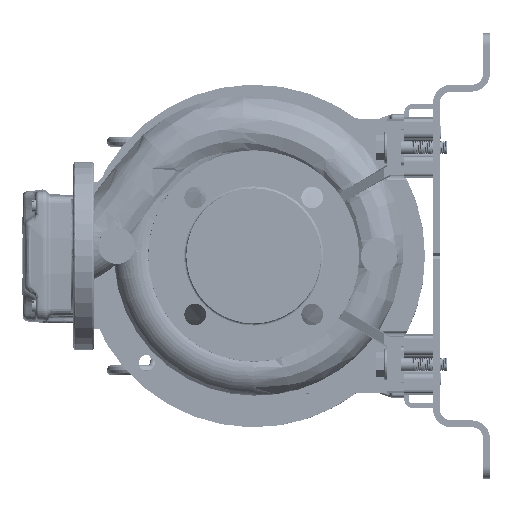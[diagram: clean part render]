
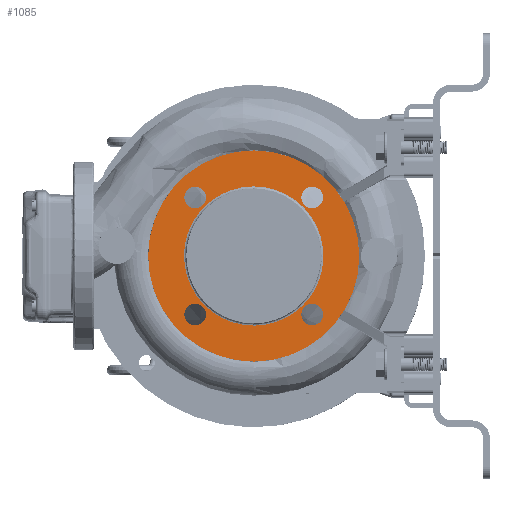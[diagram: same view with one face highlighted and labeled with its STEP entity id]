
A CAD part, left-side view. The second image highlights one B-rep face of the part: STEP entity #1085.
In plain terms, the highlighted planar face has unit normal (-1, 0, 0).
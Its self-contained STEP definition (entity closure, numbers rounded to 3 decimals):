
#846 = DIRECTION ( 'NONE',  ( -1., 0., 0. ) ) ;
#1085 = ADVANCED_FACE ( 'NONE', ( #54096, #177112, #10740, #27861, #38719, #42294 ), #137308, .F. ) ;
#1757 = CARTESIAN_POINT ( 'NONE',  ( -33.099, 157.089, 248.196 ) ) ;
#1987 = EDGE_CURVE ( 'NONE', #115631, #100692, #118472, .T. ) ;
#7335 = CARTESIAN_POINT ( 'NONE',  ( -33.099, 208.354, 308.961 ) ) ;
#8330 = CARTESIAN_POINT ( 'NONE',  ( -33.099, 96.089, 126.196 ) ) ;
#10740 = FACE_BOUND ( 'NONE', #31674, .T. ) ;
#10950 = VERTEX_POINT ( 'NONE', #104416 ) ;
#11632 = CIRCLE ( 'NONE', #150283, 9.5 ) ;
#12382 = DIRECTION ( 'NONE',  ( -1., 0., 0. ) ) ;
#13503 =( BOUNDED_CURVE ( )  B_SPLINE_CURVE ( 3, ( #75287, #157536, #8330, #131312 ),
 .UNSPECIFIED., .F., .F. ) 
 B_SPLINE_CURVE_WITH_KNOTS ( ( 4, 4 ),
 ( 0., 1. ),
 .UNSPECIFIED. ) 
 CURVE ( )  GEOMETRIC_REPRESENTATION_ITEM ( )  RATIONAL_B_SPLINE_CURVE ( ( 0.957, 0.319, 0.319, 0.957 ) ) 
 REPRESENTATION_ITEM ( '' )  );
#16032 = ORIENTED_EDGE ( 'NONE', *, *, #95029, .F. ) ;
#16487 = CIRCLE ( 'NONE', #80033, 9.5 ) ;
#19849 = EDGE_CURVE ( 'NONE', #176922, #178228, #72289, .T. ) ;
#20193 = ORIENTED_EDGE ( 'NONE', *, *, #71718, .F. ) ;
#20846 = DIRECTION ( 'NONE',  ( 0., 0., 1. ) ) ;
#21084 = EDGE_CURVE ( 'NONE', #87527, #81377, #167156, .T. ) ;
#23450 = EDGE_LOOP ( 'NONE', ( #60717, #134172 ) ) ;
#25991 = CARTESIAN_POINT ( 'NONE',  ( -33.099, 96.089, 248.196 ) ) ;
#27861 = FACE_BOUND ( 'NONE', #122093, .T. ) ;
#27965 = DIRECTION ( 'NONE',  ( -1., 0., 0. ) ) ;
#31674 = EDGE_LOOP ( 'NONE', ( #175373, #16032 ) ) ;
#32824 = EDGE_LOOP ( 'NONE', ( #146886, #124606 ) ) ;
#37164 = AXIS2_PLACEMENT_3D ( 'NONE', #1757, #846, #164570 ) ;
#38719 = FACE_BOUND ( 'NONE', #74243, .T. ) ;
#39753 = CARTESIAN_POINT ( 'NONE',  ( -33.099, 218.089, 248.196 ) ) ;
#39795 = VERTEX_POINT ( 'NONE', #178217 ) ;
#42294 = FACE_OUTER_BOUND ( 'NONE', #121746, .T. ) ;
#44105 = CARTESIAN_POINT ( 'NONE',  ( -33.099, 157.089, 155.696 ) ) ;
#45120 = EDGE_CURVE ( 'NONE', #81377, #87527, #66040, .T. ) ;
#45212 = DIRECTION ( 'NONE',  ( 0., 0., 1. ) ) ;
#46300 = CARTESIAN_POINT ( 'NONE',  ( -33.099, 105.823, 289.961 ) ) ;
#51293 = CARTESIAN_POINT ( 'NONE',  ( -33.099, 105.823, 196.931 ) ) ;
#51742 = CIRCLE ( 'NONE', #118154, 9.5 ) ;
#52440 = CARTESIAN_POINT ( 'NONE',  ( -33.099, 96.089, 248.196 ) ) ;
#54096 = FACE_BOUND ( 'NONE', #23450, .T. ) ;
#54383 = DIRECTION ( 'NONE',  ( 0., 0., 1. ) ) ;
#57279 = VERTEX_POINT ( 'NONE', #25991 ) ;
#60717 = ORIENTED_EDGE ( 'NONE', *, *, #100565, .F. ) ;
#60973 = EDGE_CURVE ( 'NONE', #39795, #137826, #106951, .T. ) ;
#61543 = CARTESIAN_POINT ( 'NONE',  ( -33.099, 157.089, 248.196 ) ) ;
#61720 = AXIS2_PLACEMENT_3D ( 'NONE', #51293, #81160, #93822 ) ;
#66040 = CIRCLE ( 'NONE', #158432, 92.5 ) ;
#66536 = AXIS2_PLACEMENT_3D ( 'NONE', #125614, #27965, #127378 ) ;
#66691 = CARTESIAN_POINT ( 'NONE',  ( -33.099, 208.354, 196.931 ) ) ;
#68929 = AXIS2_PLACEMENT_3D ( 'NONE', #130220, #133793, #160020 ) ;
#70718 = DIRECTION ( 'NONE',  ( -1., 0., 0. ) ) ;
#71718 = EDGE_CURVE ( 'NONE', #162123, #108947, #168444, .T. ) ;
#72289 = CIRCLE ( 'NONE', #68929, 9.5 ) ;
#72491 = CARTESIAN_POINT ( 'NONE',  ( -33.099, 105.823, 299.461 ) ) ;
#74243 = EDGE_LOOP ( 'NONE', ( #146717, #144826 ) ) ;
#75287 = CARTESIAN_POINT ( 'NONE',  ( -33.099, 218.089, 248.196 ) ) ;
#80033 = AXIS2_PLACEMENT_3D ( 'NONE', #178306, #151109, #54383 ) ;
#80074 = EDGE_CURVE ( 'NONE', #108947, #162123, #16487, .T. ) ;
#81160 = DIRECTION ( 'NONE',  ( -1., 0., 0. ) ) ;
#81377 = VERTEX_POINT ( 'NONE', #174495 ) ;
#86187 = EDGE_CURVE ( 'NONE', #57279, #10950, #119689, .T. ) ;
#86638 = DIRECTION ( 'NONE',  ( -1., 0., 0. ) ) ;
#87527 = VERTEX_POINT ( 'NONE', #44105 ) ;
#89596 = DIRECTION ( 'NONE',  ( -1., 0., 0. ) ) ;
#92442 = CARTESIAN_POINT ( 'NONE',  ( -33.099, 105.823, 187.431 ) ) ;
#93822 = DIRECTION ( 'NONE',  ( 0., 0., 1. ) ) ;
#95029 = EDGE_CURVE ( 'NONE', #137826, #39795, #11632, .T. ) ;
#97677 = AXIS2_PLACEMENT_3D ( 'NONE', #72491, #70718, #152083 ) ;
#100565 = EDGE_CURVE ( 'NONE', #10950, #57279, #13503, .T. ) ;
#100692 = VERTEX_POINT ( 'NONE', #46300 ) ;
#104416 = CARTESIAN_POINT ( 'NONE',  ( -33.099, 218.089, 248.196 ) ) ;
#106951 = CIRCLE ( 'NONE', #66536, 9.5 ) ;
#108572 = CARTESIAN_POINT ( 'NONE',  ( -33.099, 218.089, 370.196 ) ) ;
#108947 = VERTEX_POINT ( 'NONE', #147437 ) ;
#109327 = DIRECTION ( 'NONE',  ( 1., 0., 0. ) ) ;
#110003 = ORIENTED_EDGE ( 'NONE', *, *, #80074, .F. ) ;
#111957 = CARTESIAN_POINT ( 'NONE',  ( -33.099, 208.354, 289.961 ) ) ;
#112258 = EDGE_CURVE ( 'NONE', #100692, #115631, #158271, .T. ) ;
#114688 = CARTESIAN_POINT ( 'NONE',  ( -33.099, 208.354, 299.461 ) ) ;
#115631 = VERTEX_POINT ( 'NONE', #159603 ) ;
#118154 = AXIS2_PLACEMENT_3D ( 'NONE', #114688, #86638, #140933 ) ;
#118472 = CIRCLE ( 'NONE', #158789, 9.5 ) ;
#119689 =( BOUNDED_CURVE ( )  B_SPLINE_CURVE ( 3, ( #52440, #165413, #108572, #39753 ),
 .UNSPECIFIED., .F., .F. ) 
 B_SPLINE_CURVE_WITH_KNOTS ( ( 4, 4 ),
 ( 0., 1. ),
 .UNSPECIFIED. ) 
 CURVE ( )  GEOMETRIC_REPRESENTATION_ITEM ( )  RATIONAL_B_SPLINE_CURVE ( ( 0.957, 0.319, 0.319, 0.957 ) ) 
 REPRESENTATION_ITEM ( '' )  );
#121066 = DIRECTION ( 'NONE',  ( 0., 1., 0. ) ) ;
#121746 = EDGE_LOOP ( 'NONE', ( #149773, #157944 ) ) ;
#122093 = EDGE_LOOP ( 'NONE', ( #110003, #20193 ) ) ;
#123748 = CARTESIAN_POINT ( 'NONE',  ( -33.099, 63.479, 154.586 ) ) ;
#124606 = ORIENTED_EDGE ( 'NONE', *, *, #168637, .F. ) ;
#125614 = CARTESIAN_POINT ( 'NONE',  ( -33.099, 208.354, 196.931 ) ) ;
#127378 = DIRECTION ( 'NONE',  ( 0., 0., 1. ) ) ;
#130220 = CARTESIAN_POINT ( 'NONE',  ( -33.099, 208.354, 299.461 ) ) ;
#131312 = CARTESIAN_POINT ( 'NONE',  ( -33.099, 96.089, 248.196 ) ) ;
#133612 = AXIS2_PLACEMENT_3D ( 'NONE', #123748, #109327, #121066 ) ;
#133793 = DIRECTION ( 'NONE',  ( -1., 0., 0. ) ) ;
#134172 = ORIENTED_EDGE ( 'NONE', *, *, #86187, .F. ) ;
#137308 = PLANE ( 'NONE',  #133612 ) ;
#137826 = VERTEX_POINT ( 'NONE', #170678 ) ;
#140933 = DIRECTION ( 'NONE',  ( 0., 0., 1. ) ) ;
#142899 = DIRECTION ( 'NONE',  ( -1., 0., 0. ) ) ;
#144826 = ORIENTED_EDGE ( 'NONE', *, *, #112258, .F. ) ;
#146717 = ORIENTED_EDGE ( 'NONE', *, *, #1987, .F. ) ;
#146886 = ORIENTED_EDGE ( 'NONE', *, *, #19849, .F. ) ;
#147437 = CARTESIAN_POINT ( 'NONE',  ( -33.099, 105.823, 206.431 ) ) ;
#149773 = ORIENTED_EDGE ( 'NONE', *, *, #45120, .T. ) ;
#150283 = AXIS2_PLACEMENT_3D ( 'NONE', #66691, #12382, #164314 ) ;
#151109 = DIRECTION ( 'NONE',  ( -1., 0., 0. ) ) ;
#152083 = DIRECTION ( 'NONE',  ( 0., 0., 1. ) ) ;
#157536 = CARTESIAN_POINT ( 'NONE',  ( -33.099, 218.089, 126.196 ) ) ;
#157944 = ORIENTED_EDGE ( 'NONE', *, *, #21084, .T. ) ;
#158207 = CARTESIAN_POINT ( 'NONE',  ( -33.099, 105.823, 299.461 ) ) ;
#158271 = CIRCLE ( 'NONE', #97677, 9.5 ) ;
#158432 = AXIS2_PLACEMENT_3D ( 'NONE', #61543, #89596, #20846 ) ;
#158789 = AXIS2_PLACEMENT_3D ( 'NONE', #158207, #142899, #45212 ) ;
#159603 = CARTESIAN_POINT ( 'NONE',  ( -33.099, 105.823, 308.961 ) ) ;
#160020 = DIRECTION ( 'NONE',  ( 0., 0., 1. ) ) ;
#162123 = VERTEX_POINT ( 'NONE', #92442 ) ;
#164314 = DIRECTION ( 'NONE',  ( 0., 0., 1. ) ) ;
#164570 = DIRECTION ( 'NONE',  ( 0., 0., 1. ) ) ;
#165413 = CARTESIAN_POINT ( 'NONE',  ( -33.099, 96.089, 370.196 ) ) ;
#167156 = CIRCLE ( 'NONE', #37164, 92.5 ) ;
#168444 = CIRCLE ( 'NONE', #61720, 9.5 ) ;
#168637 = EDGE_CURVE ( 'NONE', #178228, #176922, #51742, .T. ) ;
#170678 = CARTESIAN_POINT ( 'NONE',  ( -33.099, 208.354, 187.431 ) ) ;
#174495 = CARTESIAN_POINT ( 'NONE',  ( -33.099, 157.089, 340.696 ) ) ;
#175373 = ORIENTED_EDGE ( 'NONE', *, *, #60973, .F. ) ;
#176922 = VERTEX_POINT ( 'NONE', #7335 ) ;
#177112 = FACE_BOUND ( 'NONE', #32824, .T. ) ;
#178217 = CARTESIAN_POINT ( 'NONE',  ( -33.099, 208.354, 206.431 ) ) ;
#178228 = VERTEX_POINT ( 'NONE', #111957 ) ;
#178306 = CARTESIAN_POINT ( 'NONE',  ( -33.099, 105.823, 196.931 ) ) ;
